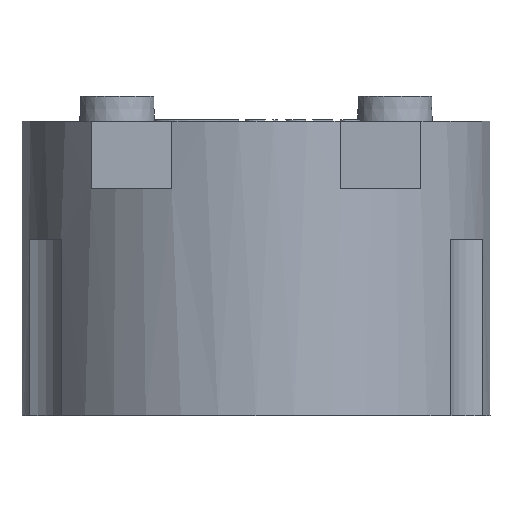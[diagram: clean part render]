
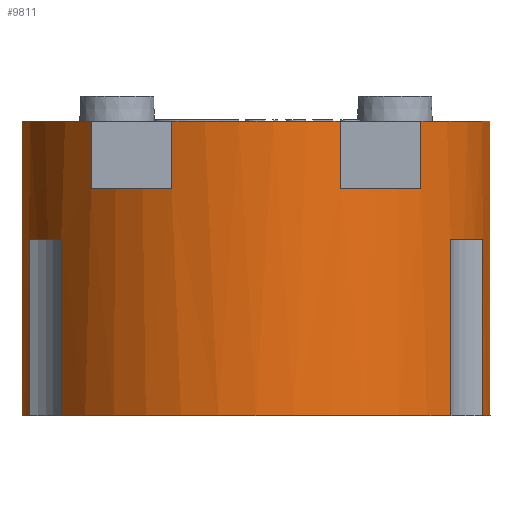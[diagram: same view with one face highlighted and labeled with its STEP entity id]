
A CAD part, front view. The second image highlights one B-rep face of the part: STEP entity #9811.
In plain terms, the highlighted cylindrical face has radius 14 mm (diameter 28 mm), a partial arc.
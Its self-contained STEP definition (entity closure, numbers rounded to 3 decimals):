
#1061= CARTESIAN_POINT(' ',(-13.9,-1.67,4.7));
#1062= VERTEX_POINT(' ',#1061);
#1076= CARTESIAN_POINT(' ',(0.,0.,4.7));
#1081= DIRECTION(' ',(0.,0.,-1.));
#1086= DIRECTION(' ',(-0.7,-0.714,0.));
#1091= AXIS2_PLACEMENT_3D(' ',#1076,#1081,#1086);
#1096= CIRCLE(' ',#1091,14.);
#1101= CARTESIAN_POINT(' ',(-9.798,-10.,4.7));
#1102= VERTEX_POINT(' ',#1101);
#1106= EDGE_CURVE(' ',#1102,#1062,#1096,.T.);
#1171= CARTESIAN_POINT(' ',(-5.,-13.077,4.7));
#1172= VERTEX_POINT(' ',#1171);
#1186= CARTESIAN_POINT(' ',(0.,0.,4.7));
#1191= DIRECTION(' ',(0.,0.,-1.));
#1196= DIRECTION(' ',(0.357,-0.934,0.));
#1201= AXIS2_PLACEMENT_3D(' ',#1186,#1191,#1196);
#1206= CIRCLE(' ',#1201,14.);
#1211= CARTESIAN_POINT(' ',(5.,-13.077,4.7));
#1212= VERTEX_POINT(' ',#1211);
#1216= EDGE_CURVE(' ',#1212,#1172,#1206,.T.);
#1281= CARTESIAN_POINT(' ',(9.798,-10.,4.7));
#1282= VERTEX_POINT(' ',#1281);
#1296= CARTESIAN_POINT(' ',(0.,0.,4.7));
#1301= DIRECTION(' ',(0.,0.,-1.));
#1306= DIRECTION(' ',(0.993,-0.119,0.));
#1311= AXIS2_PLACEMENT_3D(' ',#1296,#1301,#1306);
#1316= CIRCLE(' ',#1311,14.);
#1321= CARTESIAN_POINT(' ',(13.9,-1.67,4.7));
#1322= VERTEX_POINT(' ',#1321);
#1326= EDGE_CURVE(' ',#1322,#1282,#1316,.T.);
#9106= CARTESIAN_POINT(' ',(-13.9,-1.67,-12.8));
#9107= VERTEX_POINT(' ',#9106);
#9121= CARTESIAN_POINT(' ',(-13.9,-1.67,-12.8));
#9126= DIRECTION(' ',(0.,0.,1.));
#9131= VECTOR(' ',#9126,1.);
#9136= LINE(' ',#9121,#9131);
#9141= EDGE_CURVE(' ',#9107,#1062,#9136,.T.);
#9176= CARTESIAN_POINT(' ',(0.,0.,4.7));
#9181= DIRECTION(' ',(0.,0.,-1.));
#9186= DIRECTION(' ',(0.993,-0.119,0.));
#9191= AXIS2_PLACEMENT_3D(' ',#9176,#9181,#9186);
#9196= CYLINDRICAL_SURFACE(' ',#9191,14.);
#9201= CARTESIAN_POINT(' ',(0.,0.,-12.8));
#9206= DIRECTION(' ',(0.,0.,-1.));
#9211= DIRECTION(' ',(-0.962,-0.272,0.));
#9216= AXIS2_PLACEMENT_3D(' ',#9201,#9206,#9211);
#9221= CIRCLE(' ',#9216,14.);
#9226= CARTESIAN_POINT(' ',(-13.474,-3.802,-12.8));
#9227= VERTEX_POINT(' ',#9226);
#9231= EDGE_CURVE(' ',#9227,#9107,#9221,.T.);
#9236= ORIENTED_EDGE(' ',*,*,#9231,.F.);
#9241= CARTESIAN_POINT(' ',(-13.474,-3.802,-12.8));
#9246= DIRECTION(' ',(0.,0.,1.));
#9251= VECTOR(' ',#9246,1.);
#9256= LINE(' ',#9241,#9251);
#9261= CARTESIAN_POINT(' ',(-13.474,-3.802,-2.3));
#9262= VERTEX_POINT(' ',#9261);
#9266= EDGE_CURVE(' ',#9227,#9262,#9256,.T.);
#9271= ORIENTED_EDGE(' ',*,*,#9266,.T.);
#9276= CARTESIAN_POINT(' ',(0.,0.,-2.3));
#9281= DIRECTION(' ',(0.,0.,1.));
#9286= DIRECTION(' ',(-0.962,-0.272,0.));
#9291= AXIS2_PLACEMENT_3D(' ',#9276,#9281,#9286);
#9296= CIRCLE(' ',#9291,14.);
#9301= CARTESIAN_POINT(' ',(-11.573,-7.878,-2.3));
#9302= VERTEX_POINT(' ',#9301);
#9306= EDGE_CURVE(' ',#9262,#9302,#9296,.T.);
#9311= ORIENTED_EDGE(' ',*,*,#9306,.T.);
#9316= CARTESIAN_POINT(' ',(-11.573,-7.878,-2.3));
#9321= DIRECTION(' ',(0.,0.,-1.));
#9326= VECTOR(' ',#9321,1.);
#9331= LINE(' ',#9316,#9326);
#9336= CARTESIAN_POINT(' ',(-11.573,-7.878,-12.8));
#9337= VERTEX_POINT(' ',#9336);
#9341= EDGE_CURVE(' ',#9302,#9337,#9331,.T.);
#9346= ORIENTED_EDGE(' ',*,*,#9341,.T.);
#9351= CARTESIAN_POINT(' ',(0.,0.,-12.8));
#9356= DIRECTION(' ',(0.,0.,-1.));
#9361= DIRECTION(' ',(0.827,-0.563,0.));
#9366= AXIS2_PLACEMENT_3D(' ',#9351,#9356,#9361);
#9371= CIRCLE(' ',#9366,14.);
#9376= CARTESIAN_POINT(' ',(11.573,-7.878,-12.8));
#9377= VERTEX_POINT(' ',#9376);
#9381= EDGE_CURVE(' ',#9377,#9337,#9371,.T.);
#9386= ORIENTED_EDGE(' ',*,*,#9381,.F.);
#9391= CARTESIAN_POINT(' ',(11.573,-7.878,-12.8));
#9396= DIRECTION(' ',(0.,0.,1.));
#9401= VECTOR(' ',#9396,1.);
#9406= LINE(' ',#9391,#9401);
#9411= CARTESIAN_POINT(' ',(11.573,-7.878,-2.3));
#9412= VERTEX_POINT(' ',#9411);
#9416= EDGE_CURVE(' ',#9377,#9412,#9406,.T.);
#9421= ORIENTED_EDGE(' ',*,*,#9416,.T.);
#9426= CARTESIAN_POINT(' ',(0.,0.,-2.3));
#9431= DIRECTION(' ',(0.,0.,1.));
#9436= DIRECTION(' ',(0.827,-0.563,0.));
#9441= AXIS2_PLACEMENT_3D(' ',#9426,#9431,#9436);
#9446= CIRCLE(' ',#9441,14.);
#9451= CARTESIAN_POINT(' ',(13.474,-3.802,-2.3));
#9452= VERTEX_POINT(' ',#9451);
#9456= EDGE_CURVE(' ',#9412,#9452,#9446,.T.);
#9461= ORIENTED_EDGE(' ',*,*,#9456,.T.);
#9466= CARTESIAN_POINT(' ',(13.474,-3.802,-2.3));
#9471= DIRECTION(' ',(0.,0.,-1.));
#9476= VECTOR(' ',#9471,1.);
#9481= LINE(' ',#9466,#9476);
#9486= CARTESIAN_POINT(' ',(13.474,-3.802,-12.8));
#9487= VERTEX_POINT(' ',#9486);
#9491= EDGE_CURVE(' ',#9452,#9487,#9481,.T.);
#9496= ORIENTED_EDGE(' ',*,*,#9491,.T.);
#9501= CARTESIAN_POINT(' ',(0.,0.,-12.8));
#9506= DIRECTION(' ',(0.,0.,-1.));
#9511= DIRECTION(' ',(0.993,-0.119,0.));
#9516= AXIS2_PLACEMENT_3D(' ',#9501,#9506,#9511);
#9521= CIRCLE(' ',#9516,14.);
#9526= CARTESIAN_POINT(' ',(13.9,-1.67,-12.8));
#9527= VERTEX_POINT(' ',#9526);
#9531= EDGE_CURVE(' ',#9527,#9487,#9521,.T.);
#9536= ORIENTED_EDGE(' ',*,*,#9531,.F.);
#9541= CARTESIAN_POINT(' ',(13.9,-1.67,-12.8));
#9546= DIRECTION(' ',(0.,0.,1.));
#9551= VECTOR(' ',#9546,1.);
#9556= LINE(' ',#9541,#9551);
#9561= EDGE_CURVE(' ',#9527,#1322,#9556,.T.);
#9566= ORIENTED_EDGE(' ',*,*,#9561,.T.);
#9571= ORIENTED_EDGE(' ',*,*,#1326,.T.);
#9576= CARTESIAN_POINT(' ',(9.798,-10.,4.7));
#9581= DIRECTION(' ',(0.,0.,-1.));
#9586= VECTOR(' ',#9581,1.);
#9591= LINE(' ',#9576,#9586);
#9596= CARTESIAN_POINT(' ',(9.798,-10.,0.7));
#9597= VERTEX_POINT(' ',#9596);
#9601= EDGE_CURVE(' ',#1282,#9597,#9591,.T.);
#9606= ORIENTED_EDGE(' ',*,*,#9601,.T.);
#9611= CARTESIAN_POINT(' ',(0.,0.,0.7));
#9616= DIRECTION(' ',(0.,0.,-1.));
#9621= DIRECTION(' ',(0.7,-0.714,0.));
#9626= AXIS2_PLACEMENT_3D(' ',#9611,#9616,#9621);
#9631= CIRCLE(' ',#9626,14.);
#9636= CARTESIAN_POINT(' ',(5.,-13.077,0.7));
#9637= VERTEX_POINT(' ',#9636);
#9641= EDGE_CURVE(' ',#9597,#9637,#9631,.T.);
#9646= ORIENTED_EDGE(' ',*,*,#9641,.T.);
#9651= CARTESIAN_POINT(' ',(5.,-13.077,0.7));
#9656= DIRECTION(' ',(0.,0.,1.));
#9661= VECTOR(' ',#9656,1.);
#9666= LINE(' ',#9651,#9661);
#9671= EDGE_CURVE(' ',#9637,#1212,#9666,.T.);
#9676= ORIENTED_EDGE(' ',*,*,#9671,.T.);
#9681= ORIENTED_EDGE(' ',*,*,#1216,.T.);
#9686= CARTESIAN_POINT(' ',(-5.,-13.077,4.7));
#9691= DIRECTION(' ',(0.,0.,-1.));
#9696= VECTOR(' ',#9691,1.);
#9701= LINE(' ',#9686,#9696);
#9706= CARTESIAN_POINT(' ',(-5.,-13.077,0.7));
#9707= VERTEX_POINT(' ',#9706);
#9711= EDGE_CURVE(' ',#1172,#9707,#9701,.T.);
#9716= ORIENTED_EDGE(' ',*,*,#9711,.T.);
#9721= CARTESIAN_POINT(' ',(0.,0.,0.7));
#9726= DIRECTION(' ',(0.,0.,-1.));
#9731= DIRECTION(' ',(-0.357,-0.934,0.));
#9736= AXIS2_PLACEMENT_3D(' ',#9721,#9726,#9731);
#9741= CIRCLE(' ',#9736,14.);
#9746= CARTESIAN_POINT(' ',(-9.798,-10.,0.7));
#9747= VERTEX_POINT(' ',#9746);
#9751= EDGE_CURVE(' ',#9707,#9747,#9741,.T.);
#9756= ORIENTED_EDGE(' ',*,*,#9751,.T.);
#9761= CARTESIAN_POINT(' ',(-9.798,-10.,0.7));
#9766= DIRECTION(' ',(0.,0.,1.));
#9771= VECTOR(' ',#9766,1.);
#9776= LINE(' ',#9761,#9771);
#9781= EDGE_CURVE(' ',#9747,#1102,#9776,.T.);
#9786= ORIENTED_EDGE(' ',*,*,#9781,.T.);
#9791= ORIENTED_EDGE(' ',*,*,#1106,.T.);
#9796= ORIENTED_EDGE(' ',*,*,#9141,.F.);
#9801= EDGE_LOOP(' ',(#9236,#9271,#9311,#9346,#9386,#9421,#9461,#9496,#9536,#9566,#9571,#9606,#9646,#9676,#9681,#9716,#9756,#9786,#9791,#9796));
#9806= FACE_OUTER_BOUND(' ',#9801,.T.);
#9811= ADVANCED_FACE(' ',(#9806),#9196,.T.);
